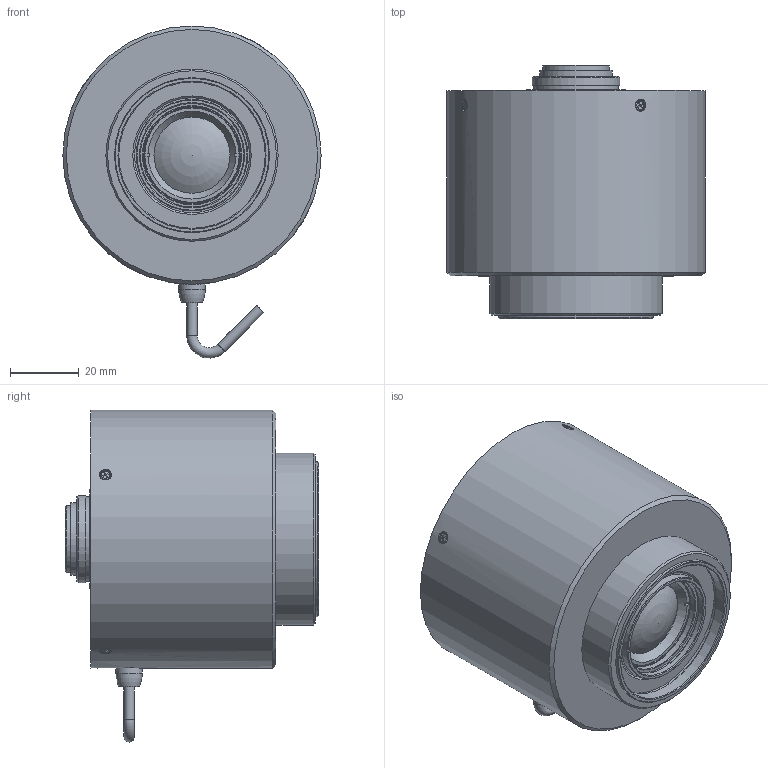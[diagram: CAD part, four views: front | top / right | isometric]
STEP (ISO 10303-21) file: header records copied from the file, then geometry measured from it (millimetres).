
FILE_DESCRIPTION(/* description */ ('Unknown'),/* implementation_level */ '2;1');
FILE_NAME(/* name */ 'VL5024U-MPZ_210608',/* time_stamp */ '2021-06-08T10:12:43+09:00',/* author */ ('Unknown'),/* organization */ ('Unknown'),/* preprocessor_version */ 'ST-DEVELOPER v16.7',/* originating_system */ 'DEX',/* authorisation */ $);
FILE_SCHEMA (('AUTOMOTIVE_DESIGN {1 0 10303 214 3 1 1}'));
Length unit declared in the file: millimetre
Products named in the file (1): VL5024U-MPZ
Bounding box: 75 x 73.55 x 96.39 mm (x, y, z)
Volume: 256793.8 mm3; surface area: 26164.1 mm2
Topology: 1 solids, 8 shells, 390 faces, 958 edges, 635 vertices
Faces by surface type: plane 281, cylinder 69, cone 27, torus 13
Full cylindrical faces by diameter (mm): 1.7 x2, 1.8 x2, 2 x7, 2.2 x7, 3 x14, 3.5 x7, 3.6 x1, 4 x4, 7.699 x1, 16.599 x1, 19.4 x1, 20.999 x1, 22.099 x1, 24.537 x1, 25.399 x1, 28.399 x1, 30 x1, 30.5 x1, 32.399 x1, 42.5 x1, 43 x1, 44 x1, 45 x1, 50 x1, 75 x1
Entity records: 13454 total; most frequent: CARTESIAN_POINT 1954, DIRECTION 1751, ORIENTED_EDGE 1644, EDGE_CURVE 822, LINE 631, VECTOR 631, VERTEX_POINT 600, AXIS2_PLACEMENT_3D 560
